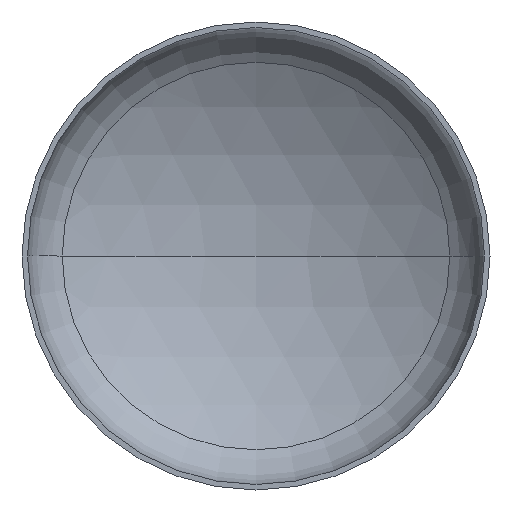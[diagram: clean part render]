
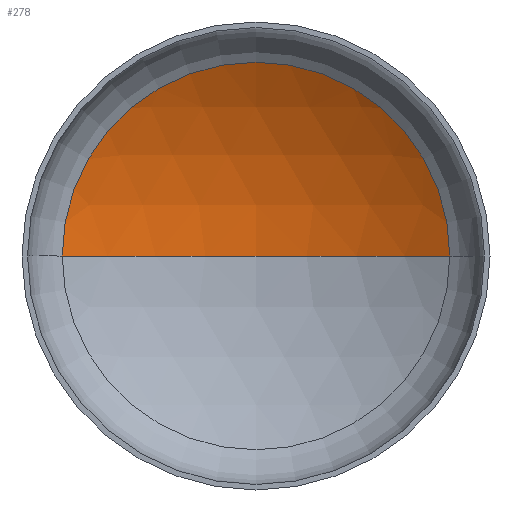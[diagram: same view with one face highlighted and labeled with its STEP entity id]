
A CAD part, front view. The second image highlights one B-rep face of the part: STEP entity #278.
In plain terms, the highlighted spherical face has radius 3200 mm.
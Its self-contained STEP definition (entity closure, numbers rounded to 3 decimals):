
#7 = ORIENTED_EDGE ( 'NONE', *, *, #383, .F. ) ;
#15 = AXIS2_PLACEMENT_3D ( 'NONE', #178, #179, #352 ) ;
#16 = AXIS2_PLACEMENT_3D ( 'NONE', #146, #411, #277 ) ;
#35 = EDGE_LOOP ( 'NONE', ( #7, #144, #114 ) ) ;
#43 = AXIS2_PLACEMENT_3D ( 'NONE', #226, #214, #273 ) ;
#101 = DIRECTION ( 'NONE',  ( 1., 0., 0. ) ) ;
#114 = ORIENTED_EDGE ( 'NONE', *, *, #341, .T. ) ;
#144 = ORIENTED_EDGE ( 'NONE', *, *, #345, .T. ) ;
#146 = CARTESIAN_POINT ( 'NONE',  ( 0., 676.207, 0. ) ) ;
#152 = SPHERICAL_SURFACE ( 'NONE', #43, 3200. ) ;
#156 = VERTEX_POINT ( 'NONE', #204 ) ;
#165 = VERTEX_POINT ( 'NONE', #280 ) ;
#178 = CARTESIAN_POINT ( 'NONE',  ( 0., -2061.782, 0. ) ) ;
#179 = DIRECTION ( 'NONE',  ( 0., 0., -1. ) ) ;
#189 = CARTESIAN_POINT ( 'NONE',  ( 0., -2061.782, 0. ) ) ;
#204 = CARTESIAN_POINT ( 'NONE',  ( 1656.325, 676.207, 0. ) ) ;
#214 = DIRECTION ( 'NONE',  ( 0., 0., -1. ) ) ;
#226 = CARTESIAN_POINT ( 'NONE',  ( 0., -2061.782, 0. ) ) ;
#235 = FACE_OUTER_BOUND ( 'NONE', #35, .T. ) ;
#266 = CARTESIAN_POINT ( 'NONE',  ( -1656.325, 676.207, 0. ) ) ;
#273 = DIRECTION ( 'NONE',  ( -1., 0., 0. ) ) ;
#274 = CIRCLE ( 'NONE', #16, 1656.325 ) ;
#277 = DIRECTION ( 'NONE',  ( 1., 0., 0. ) ) ;
#278 = ADVANCED_FACE ( 'NONE', ( #235 ), #152, .F. ) ;
#280 = CARTESIAN_POINT ( 'NONE',  ( 0., 1138.218, 0. ) ) ;
#282 = DIRECTION ( 'NONE',  ( 0., 0., 1. ) ) ;
#313 = CIRCLE ( 'NONE', #387, 3200. ) ;
#333 = CIRCLE ( 'NONE', #15, 3200. ) ;
#341 = EDGE_CURVE ( 'NONE', #156, #391, #274, .T. ) ;
#345 = EDGE_CURVE ( 'NONE', #165, #156, #333, .T. ) ;
#352 = DIRECTION ( 'NONE',  ( -1., 0., 0. ) ) ;
#383 = EDGE_CURVE ( 'NONE', #165, #391, #313, .T. ) ;
#387 = AXIS2_PLACEMENT_3D ( 'NONE', #189, #282, #101 ) ;
#391 = VERTEX_POINT ( 'NONE', #266 ) ;
#411 = DIRECTION ( 'NONE',  ( 0., -1., 0. ) ) ;
